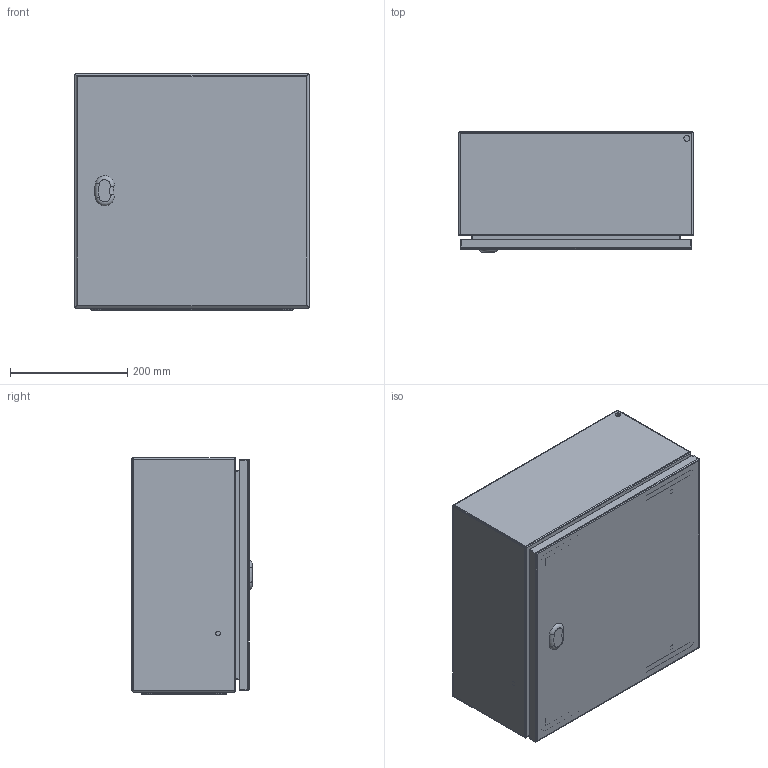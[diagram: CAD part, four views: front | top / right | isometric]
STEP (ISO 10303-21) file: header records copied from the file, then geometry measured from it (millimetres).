
FILE_DESCRIPTION(/* description */ ('STEP AP214'),/* implementation_level */ '2;1');
FILE_NAME(/* name */ 'EC040420-LOD400',/* time_stamp */ '2025-07-31T11:30:56+02:00',/* author */ ('License CC BY-ND 4.0'),/* organization */ ('CADENAS'),/* preprocessor_version */ 'ST-DEVELOPER v19.3',/* originating_system */ 'PARTsolutions',/* authorisation */ ' ');
FILE_SCHEMA (('AUTOMOTIVE_DESIGN {1 0 10303 214 3 1 1}'));
Length unit declared in the file: millimetre
Products named in the file (5): EC040420-LOD400; EC040420-LOD400_cabinet; EC040420-LOD400_door; EC040420-LOD400_bottom_plate; EC040420-LOD400_inner_plate
Assembly tree (4 placements, depth 2):
  EC040420-LOD400
    EC040420-LOD400_cabinet
    EC040420-LOD400_door
    EC040420-LOD400_bottom_plate
    EC040420-LOD400_inner_plate
Bounding box: 400 x 205 x 404 mm (x, y, z)
Volume: 1401633.9 mm3; surface area: 1695638.3 mm2
Topology: 4 solids, 4 shells, 482 faces, 1130 edges, 728 vertices
Faces by surface type: cylinder 198, plane 194, cone 46, torus 44
Full cylindrical faces by diameter (mm): 1 x48, 4.5 x32, 5 x4, 5.5 x4, 6 x4, 7 x4, 8 x12, 10 x10, 14 x4
Entity records: 13043 total; most frequent: DIRECTION 2406, CARTESIAN_POINT 2089, ORIENTED_EDGE 1832, AXIS2_PLACEMENT_3D 1003, EDGE_CURVE 916, EDGE_LOOP 852, FACE_BOUND 852, VERTEX_POINT 686
